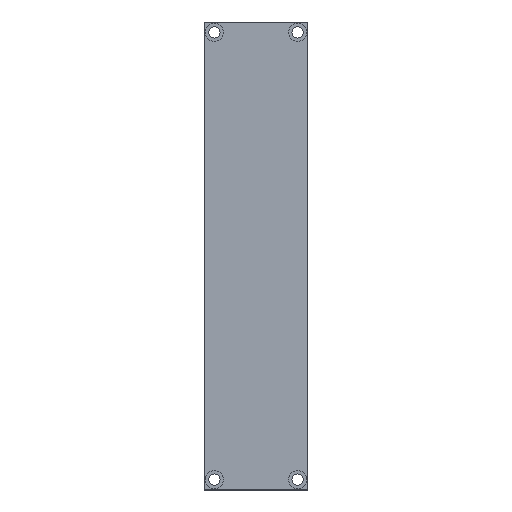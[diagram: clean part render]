
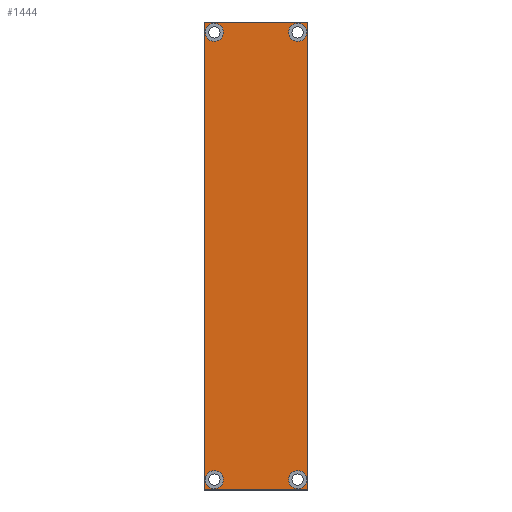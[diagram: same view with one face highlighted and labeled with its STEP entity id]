
A CAD part, top view. The second image highlights one B-rep face of the part: STEP entity #1444.
In plain terms, the highlighted planar face has unit normal (0, 0, 1).
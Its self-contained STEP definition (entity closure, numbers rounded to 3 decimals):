
#216=CARTESIAN_POINT('',(29.25,264.0,5.0));
#217=VERTEX_POINT('',#216);
#233=CARTESIAN_POINT('',(18.75,264.0,5.0));
#234=VERTEX_POINT('',#233);
#241=CARTESIAN_POINT('',(24.,264.0,5.0));
#242=DIRECTION('',(0.0,0.0,-1.0));
#243=DIRECTION('',(1.0,0.0,0.0));
#244=AXIS2_PLACEMENT_3D('',#241,#242,#243);
#245=CIRCLE('',#244,5.25);
#246=EDGE_CURVE('',#217,#234,#245,.T.);
#342=CARTESIAN_POINT('',(29.25,6.,5.0));
#343=VERTEX_POINT('',#342);
#359=CARTESIAN_POINT('',(18.75,6.,5.0));
#360=VERTEX_POINT('',#359);
#367=CARTESIAN_POINT('',(24.,6.,5.0));
#368=DIRECTION('',(0.0,0.0,-1.0));
#369=DIRECTION('',(1.0,0.0,0.0));
#370=AXIS2_PLACEMENT_3D('',#367,#368,#369);
#371=CIRCLE('',#370,5.25);
#372=EDGE_CURVE('',#343,#360,#371,.T.);
#468=CARTESIAN_POINT('',(-18.75,6.,5.0));
#469=VERTEX_POINT('',#468);
#485=CARTESIAN_POINT('',(-29.25,6.,5.0));
#486=VERTEX_POINT('',#485);
#493=CARTESIAN_POINT('',(-24.,6.,5.0));
#494=DIRECTION('',(0.0,0.0,-1.0));
#495=DIRECTION('',(1.0,0.0,0.0));
#496=AXIS2_PLACEMENT_3D('',#493,#494,#495);
#497=CIRCLE('',#496,5.25);
#498=EDGE_CURVE('',#469,#486,#497,.T.);
#594=CARTESIAN_POINT('',(-18.75,264.0,5.0));
#595=VERTEX_POINT('',#594);
#611=CARTESIAN_POINT('',(-29.25,264.0,5.0));
#612=VERTEX_POINT('',#611);
#619=CARTESIAN_POINT('',(-24.,264.0,5.0));
#620=DIRECTION('',(0.0,0.0,-1.0));
#621=DIRECTION('',(1.0,0.0,0.0));
#622=AXIS2_PLACEMENT_3D('',#619,#620,#621);
#623=CIRCLE('',#622,5.25);
#624=EDGE_CURVE('',#595,#612,#623,.T.);
#938=CARTESIAN_POINT('',(-24.,264.0,5.0));
#939=DIRECTION('',(0.0,0.0,-1.0));
#940=DIRECTION('',(1.0,0.0,0.0));
#941=AXIS2_PLACEMENT_3D('',#938,#939,#940);
#942=CIRCLE('',#941,5.25);
#943=EDGE_CURVE('',#612,#595,#942,.T.);
#1042=CARTESIAN_POINT('',(-24.,6.,5.0));
#1043=DIRECTION('',(0.0,0.0,-1.0));
#1044=DIRECTION('',(1.0,0.0,0.0));
#1045=AXIS2_PLACEMENT_3D('',#1042,#1043,#1044);
#1046=CIRCLE('',#1045,5.25);
#1047=EDGE_CURVE('',#486,#469,#1046,.T.);
#1140=CARTESIAN_POINT('',(24.,6.,5.0));
#1141=DIRECTION('',(0.0,0.0,-1.0));
#1142=DIRECTION('',(1.0,0.0,0.0));
#1143=AXIS2_PLACEMENT_3D('',#1140,#1141,#1142);
#1144=CIRCLE('',#1143,5.25);
#1145=EDGE_CURVE('',#360,#343,#1144,.T.);
#1238=CARTESIAN_POINT('',(24.,264.0,5.0));
#1239=DIRECTION('',(0.0,0.0,-1.0));
#1240=DIRECTION('',(1.0,0.0,0.0));
#1241=AXIS2_PLACEMENT_3D('',#1238,#1239,#1240);
#1242=CIRCLE('',#1241,5.25);
#1243=EDGE_CURVE('',#234,#217,#1242,.T.);
#1294=CARTESIAN_POINT('',(-30.0,270.0,5.0));
#1295=VERTEX_POINT('',#1294);
#1312=CARTESIAN_POINT('',(-30.0,0.0,5.0));
#1313=VERTEX_POINT('',#1312);
#1320=CARTESIAN_POINT('',(-30.0,0.0,5.0));
#1321=DIRECTION('',(0.0,1.0,0.0));
#1322=VECTOR('',#1321,270.0);
#1323=LINE('',#1320,#1322);
#1324=EDGE_CURVE('',#1313,#1295,#1323,.T.);
#1381=CARTESIAN_POINT('',(30.0,270.0,5.0));
#1382=VERTEX_POINT('',#1381);
#1389=CARTESIAN_POINT('',(30.0,0.0,5.0));
#1390=VERTEX_POINT('',#1389);
#1391=CARTESIAN_POINT('',(30.0,0.0,5.0));
#1392=DIRECTION('',(0.0,1.0,0.0));
#1393=VECTOR('',#1392,270.0);
#1394=LINE('',#1391,#1393);
#1395=EDGE_CURVE('',#1390,#1382,#1394,.T.);
#1407=CARTESIAN_POINT('',(30.0,0.0,5.0));
#1408=DIRECTION('',(0.0,0.0,1.0));
#1409=DIRECTION('',(1.0,0.0,0.0));
#1410=AXIS2_PLACEMENT_3D('',#1407,#1408,#1409);
#1411=PLANE('',#1410);
#1412=CARTESIAN_POINT('',(30.0,270.0,5.0));
#1413=DIRECTION('',(-1.0,0.0,0.0));
#1414=VECTOR('',#1413,60.0);
#1415=LINE('',#1412,#1414);
#1416=EDGE_CURVE('',#1382,#1295,#1415,.T.);
#1417=ORIENTED_EDGE('',*,*,#1416,.T.);
#1418=ORIENTED_EDGE('',*,*,#1324,.F.);
#1419=CARTESIAN_POINT('',(30.0,0.0,5.0));
#1420=DIRECTION('',(-1.0,0.0,0.0));
#1421=VECTOR('',#1420,60.0);
#1422=LINE('',#1419,#1421);
#1423=EDGE_CURVE('',#1390,#1313,#1422,.T.);
#1424=ORIENTED_EDGE('',*,*,#1423,.F.);
#1425=ORIENTED_EDGE('',*,*,#1395,.T.);
#1426=EDGE_LOOP('',(#1417,#1418,#1424,#1425));
#1427=FACE_OUTER_BOUND('',#1426,.T.);
#1428=ORIENTED_EDGE('',*,*,#624,.T.);
#1429=ORIENTED_EDGE('',*,*,#943,.T.);
#1430=EDGE_LOOP('',(#1428,#1429));
#1431=FACE_BOUND('',#1430,.T.);
#1432=ORIENTED_EDGE('',*,*,#498,.T.);
#1433=ORIENTED_EDGE('',*,*,#1047,.T.);
#1434=EDGE_LOOP('',(#1432,#1433));
#1435=FACE_BOUND('',#1434,.T.);
#1436=ORIENTED_EDGE('',*,*,#372,.T.);
#1437=ORIENTED_EDGE('',*,*,#1145,.T.);
#1438=EDGE_LOOP('',(#1436,#1437));
#1439=FACE_BOUND('',#1438,.T.);
#1440=ORIENTED_EDGE('',*,*,#246,.T.);
#1441=ORIENTED_EDGE('',*,*,#1243,.T.);
#1442=EDGE_LOOP('',(#1440,#1441));
#1443=FACE_BOUND('',#1442,.T.);
#1444=ADVANCED_FACE('',(#1427,#1431,#1435,#1439,#1443),#1411,.T.);
